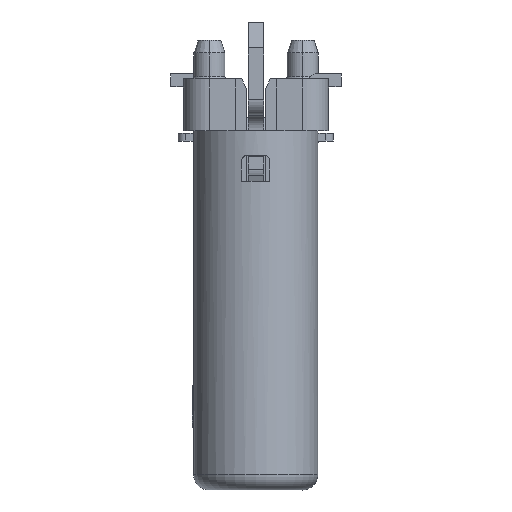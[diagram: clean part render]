
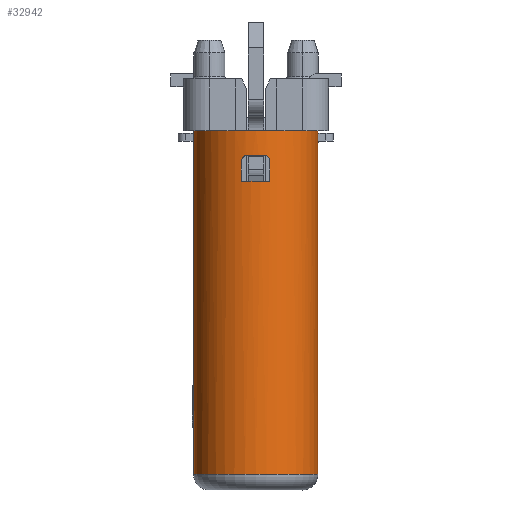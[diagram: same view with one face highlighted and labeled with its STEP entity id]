
A CAD part, left-side view. The second image highlights one B-rep face of the part: STEP entity #32942.
In plain terms, the highlighted cylindrical face has radius 1.2 mm (diameter 2.4 mm), a partial arc.
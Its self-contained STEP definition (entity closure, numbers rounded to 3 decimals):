
#425 = EDGE_CURVE ( 'NONE', #14199, #42051, #34460, .T. ) ;
#516 = AXIS2_PLACEMENT_3D ( 'NONE', #12237, #17893, #58818 ) ;
#732 = EDGE_LOOP ( 'NONE', ( #20539, #54087, #36433, #14871, #56890, #42017 ) ) ;
#3780 = LINE ( 'NONE', #24096, #10964 ) ;
#3914 = CARTESIAN_POINT ( 'NONE',  ( 0.237, 1.68, -2.73 ) ) ;
#4180 = CARTESIAN_POINT ( 'NONE',  ( 1.405, 1.405, -8.389 ) ) ;
#4781 = DIRECTION ( 'NONE',  ( 0., 0., -1. ) ) ;
#5081 = VERTEX_POINT ( 'NONE', #3914 ) ;
#5498 = CARTESIAN_POINT ( 'NONE',  ( 0.237, 1.68, -2.33 ) ) ;
#7553 = CARTESIAN_POINT ( 'NONE',  ( 0.235, 1.671, -2.279 ) ) ;
#8352 = AXIS2_PLACEMENT_3D ( 'NONE', #35137, #55103, #24494 ) ;
#9107 = DIRECTION ( 'NONE',  ( 0., 0., -1. ) ) ;
#9768 = CARTESIAN_POINT ( 'NONE',  ( 0.237, 1.68, -2.33 ) ) ;
#10007 = CARTESIAN_POINT ( 'NONE',  ( 0.275, 1., -1.75 ) ) ;
#10740 = CARTESIAN_POINT ( 'NONE',  ( 0.237, 1.13, -2.33 ) ) ;
#10935 = B_SPLINE_CURVE_WITH_KNOTS ( 'NONE', 3,
 ( #26379, #20100, #51680, #10740 ),
 .UNSPECIFIED., .F., .F.,
 ( 4, 4 ),
 ( 0., 1. ),
 .UNSPECIFIED. ) ;
#10964 = VECTOR ( 'NONE', #59691, 1000. ) ;
#11332 = ORIENTED_EDGE ( 'NONE', *, *, #32918, .T. ) ;
#11632 = ORIENTED_EDGE ( 'NONE', *, *, #43632, .T. ) ;
#12229 = CARTESIAN_POINT ( 'NONE',  ( 0.218, 1.23, -2.23 ) ) ;
#12237 = CARTESIAN_POINT ( 'NONE',  ( 1.405, 1.405, -1.75 ) ) ;
#13837 = DIRECTION ( 'NONE',  ( 0., 0., 1. ) ) ;
#14199 = VERTEX_POINT ( 'NONE', #5498 ) ;
#14357 = AXIS2_PLACEMENT_3D ( 'NONE', #18226, #62829, #16905 ) ;
#14674 = EDGE_CURVE ( 'NONE', #15639, #18320, #10935, .T. ) ;
#14871 = ORIENTED_EDGE ( 'NONE', *, *, #31132, .F. ) ;
#15639 = VERTEX_POINT ( 'NONE', #12229 ) ;
#15801 = CIRCLE ( 'NONE', #8352, 1.2 ) ;
#16366 = CIRCLE ( 'NONE', #28044, 1.2 ) ;
#16905 = DIRECTION ( 'NONE',  ( 0., -1., 0. ) ) ;
#17759 = DIRECTION ( 'NONE',  ( -0.989, 0.146, 0. ) ) ;
#17893 = DIRECTION ( 'NONE',  ( 0., 0., -1. ) ) ;
#18226 = CARTESIAN_POINT ( 'NONE',  ( 1.405, 1.405, 1.301 ) ) ;
#18320 = VERTEX_POINT ( 'NONE', #38029 ) ;
#19502 = DIRECTION ( 'NONE',  ( 0., 1., 0. ) ) ;
#19796 = EDGE_CURVE ( 'NONE', #41602, #5081, #54878, .T. ) ;
#20037 = CIRCLE ( 'NONE', #45525, 1.2 ) ;
#20100 = CARTESIAN_POINT ( 'NONE',  ( 0.226, 1.175, -2.23 ) ) ;
#20539 = ORIENTED_EDGE ( 'NONE', *, *, #425, .T. ) ;
#20953 = VERTEX_POINT ( 'NONE', #25706 ) ;
#21521 = EDGE_CURVE ( 'NONE', #57203, #63252, #27263, .T. ) ;
#21560 = CARTESIAN_POINT ( 'NONE',  ( 0.226, 1.631, -2.24 ) ) ;
#22673 = EDGE_CURVE ( 'NONE', #36663, #63252, #65599, .T. ) ;
#24096 = CARTESIAN_POINT ( 'NONE',  ( 0.237, 1.13, -2.73 ) ) ;
#24256 = EDGE_CURVE ( 'NONE', #24708, #49941, #20037, .T. ) ;
#24494 = DIRECTION ( 'NONE',  ( 0., -1., 0. ) ) ;
#24520 = CARTESIAN_POINT ( 'NONE',  ( 1.405, 0.205, -1.75 ) ) ;
#24708 = VERTEX_POINT ( 'NONE', #10007 ) ;
#24965 = EDGE_LOOP ( 'NONE', ( #11332, #26839, #61816, #61468, #11632, #29353 ) ) ;
#25083 = CARTESIAN_POINT ( 'NONE',  ( 1.405, 1.405, -1.75 ) ) ;
#25706 = CARTESIAN_POINT ( 'NONE',  ( 1.405, 2.605, -1.75 ) ) ;
#26379 = CARTESIAN_POINT ( 'NONE',  ( 0.218, 1.23, -2.23 ) ) ;
#26548 = CARTESIAN_POINT ( 'NONE',  ( 0.237, 1.68, -2.33 ) ) ;
#26839 = ORIENTED_EDGE ( 'NONE', *, *, #47630, .F. ) ;
#27263 = LINE ( 'NONE', #58520, #56036 ) ;
#28044 = AXIS2_PLACEMENT_3D ( 'NONE', #63360, #49697, #17759 ) ;
#29353 = ORIENTED_EDGE ( 'NONE', *, *, #24256, .T. ) ;
#30749 = CARTESIAN_POINT ( 'NONE',  ( 0.272, 1.8, -1.75 ) ) ;
#31132 = EDGE_CURVE ( 'NONE', #41602, #18320, #3780, .T. ) ;
#32918 = EDGE_CURVE ( 'NONE', #49941, #20953, #36665, .T. ) ;
#32942 = ADVANCED_FACE ( 'NONE', ( #63498, #37855 ), #63820, .T. ) ;
#34303 = CARTESIAN_POINT ( 'NONE',  ( 0.237, 1.13, -2.73 ) ) ;
#34460 = B_SPLINE_CURVE_WITH_KNOTS ( 'NONE', 3,
 ( #26548, #48158, #7553, #21560, #47164, #52494 ),
 .UNSPECIFIED., .F., .F.,
 ( 4, 2, 4 ),
 ( 0., 0.5, 1. ),
 .UNSPECIFIED. ) ;
#35137 = CARTESIAN_POINT ( 'NONE',  ( 1.405, 1.405, -1.75 ) ) ;
#35688 = DIRECTION ( 'NONE',  ( -0.973, -0.229, 0. ) ) ;
#36433 = ORIENTED_EDGE ( 'NONE', *, *, #14674, .T. ) ;
#36663 = VERTEX_POINT ( 'NONE', #46004 ) ;
#36665 = CIRCLE ( 'NONE', #516, 1.2 ) ;
#37855 = FACE_OUTER_BOUND ( 'NONE', #24965, .T. ) ;
#38029 = CARTESIAN_POINT ( 'NONE',  ( 0.237, 1.13, -2.33 ) ) ;
#38305 = EDGE_CURVE ( 'NONE', #14199, #5081, #40710, .T. ) ;
#40710 = LINE ( 'NONE', #9768, #44127 ) ;
#41602 = VERTEX_POINT ( 'NONE', #34303 ) ;
#42017 = ORIENTED_EDGE ( 'NONE', *, *, #38305, .F. ) ;
#42051 = VERTEX_POINT ( 'NONE', #54179 ) ;
#43632 = EDGE_CURVE ( 'NONE', #57203, #24708, #15801, .T. ) ;
#44127 = VECTOR ( 'NONE', #4781, 1000. ) ;
#45243 = LINE ( 'NONE', #64574, #57688 ) ;
#45525 = AXIS2_PLACEMENT_3D ( 'NONE', #25083, #9107, #65684 ) ;
#46004 = CARTESIAN_POINT ( 'NONE',  ( 1.405, 2.605, -8.389 ) ) ;
#46632 = DIRECTION ( 'NONE',  ( 0., 0., -1. ) ) ;
#47164 = CARTESIAN_POINT ( 'NONE',  ( 0.222, 1.608, -2.23 ) ) ;
#47517 = AXIS2_PLACEMENT_3D ( 'NONE', #4180, #13837, #19502 ) ;
#47630 = EDGE_CURVE ( 'NONE', #36663, #20953, #45243, .T. ) ;
#48158 = CARTESIAN_POINT ( 'NONE',  ( 0.237, 1.68, -2.302 ) ) ;
#49697 = DIRECTION ( 'NONE',  ( 0., 0., 1. ) ) ;
#49941 = VERTEX_POINT ( 'NONE', #30749 ) ;
#51638 = CARTESIAN_POINT ( 'NONE',  ( 1.405, 1.405, -2.73 ) ) ;
#51680 = CARTESIAN_POINT ( 'NONE',  ( 0.237, 1.13, -2.275 ) ) ;
#52494 = CARTESIAN_POINT ( 'NONE',  ( 0.218, 1.58, -2.23 ) ) ;
#54087 = ORIENTED_EDGE ( 'NONE', *, *, #63074, .T. ) ;
#54179 = CARTESIAN_POINT ( 'NONE',  ( 0.218, 1.58, -2.23 ) ) ;
#54878 = CIRCLE ( 'NONE', #62283, 1.2 ) ;
#55103 = DIRECTION ( 'NONE',  ( 0., 0., -1. ) ) ;
#55559 = DIRECTION ( 'NONE',  ( 0., 0., 1. ) ) ;
#56036 = VECTOR ( 'NONE', #58200, 1000. ) ;
#56890 = ORIENTED_EDGE ( 'NONE', *, *, #19796, .T. ) ;
#57203 = VERTEX_POINT ( 'NONE', #24520 ) ;
#57688 = VECTOR ( 'NONE', #55559, 1000. ) ;
#58200 = DIRECTION ( 'NONE',  ( 0., 0., -1. ) ) ;
#58520 = CARTESIAN_POINT ( 'NONE',  ( 1.405, 0.205, -1.75 ) ) ;
#58818 = DIRECTION ( 'NONE',  ( -0.944, 0.329, 0. ) ) ;
#59691 = DIRECTION ( 'NONE',  ( 0., 0., 1. ) ) ;
#61468 = ORIENTED_EDGE ( 'NONE', *, *, #21521, .F. ) ;
#61816 = ORIENTED_EDGE ( 'NONE', *, *, #22673, .T. ) ;
#62283 = AXIS2_PLACEMENT_3D ( 'NONE', #51638, #46632, #35688 ) ;
#62621 = CARTESIAN_POINT ( 'NONE',  ( 1.405, 0.205, -8.389 ) ) ;
#62829 = DIRECTION ( 'NONE',  ( 0., 0., -1. ) ) ;
#63074 = EDGE_CURVE ( 'NONE', #42051, #15639, #16366, .T. ) ;
#63252 = VERTEX_POINT ( 'NONE', #62621 ) ;
#63360 = CARTESIAN_POINT ( 'NONE',  ( 1.405, 1.405, -2.23 ) ) ;
#63498 = FACE_BOUND ( 'NONE', #732, .T. ) ;
#63820 = CYLINDRICAL_SURFACE ( 'NONE', #14357, 1.2 ) ;
#64574 = CARTESIAN_POINT ( 'NONE',  ( 1.405, 2.605, -8.389 ) ) ;
#65599 = CIRCLE ( 'NONE', #47517, 1.2 ) ;
#65684 = DIRECTION ( 'NONE',  ( -0.941, -0.338, 0. ) ) ;
